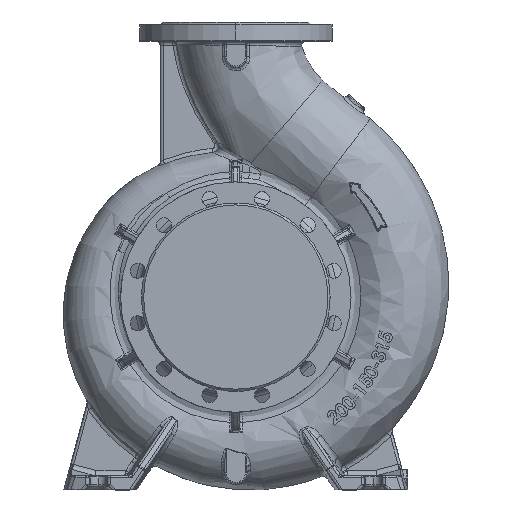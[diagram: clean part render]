
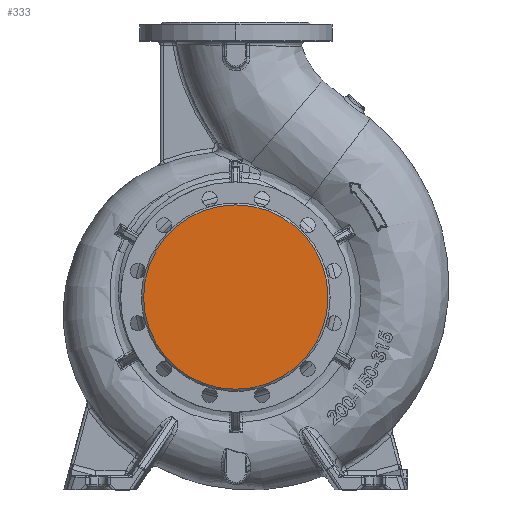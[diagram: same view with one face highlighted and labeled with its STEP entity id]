
A CAD part, top view. The second image highlights one B-rep face of the part: STEP entity #333.
In plain terms, the highlighted planar face has unit normal (0, 0, 1).
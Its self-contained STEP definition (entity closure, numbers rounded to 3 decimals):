
#333 = ADVANCED_FACE ( 'NONE', ( #80663 ), #50918, .T. ) ;
#10302 = CARTESIAN_POINT ( 'NONE',  ( 134., 0., 160. ) ) ;
#15820 = EDGE_CURVE ( 'NONE', #51721, #84961, #26390, .T. ) ;
#18612 = EDGE_LOOP ( 'NONE', ( #64707, #78512 ) ) ;
#21376 = AXIS2_PLACEMENT_3D ( 'NONE', #53398, #44490, #36965 ) ;
#25945 = DIRECTION ( 'NONE',  ( 1., 0., 0. ) ) ;
#26390 = CIRCLE ( 'NONE', #21376, 134. ) ;
#33794 = DIRECTION ( 'NONE',  ( 0., 0., 1. ) ) ;
#34141 = CARTESIAN_POINT ( 'NONE',  ( 0., 0., 160. ) ) ;
#35549 = CIRCLE ( 'NONE', #42718, 134. ) ;
#36965 = DIRECTION ( 'NONE',  ( 1., 0., 0. ) ) ;
#42718 = AXIS2_PLACEMENT_3D ( 'NONE', #73826, #82067, #25945 ) ;
#44490 = DIRECTION ( 'NONE',  ( 0., 0., 1. ) ) ;
#50918 = PLANE ( 'NONE',  #57253 ) ;
#51721 = VERTEX_POINT ( 'NONE', #10302 ) ;
#53398 = CARTESIAN_POINT ( 'NONE',  ( 0., 0., 160. ) ) ;
#54012 = CARTESIAN_POINT ( 'NONE',  ( -134., 0., 160. ) ) ;
#55009 = EDGE_CURVE ( 'NONE', #84961, #51721, #35549, .T. ) ;
#57253 = AXIS2_PLACEMENT_3D ( 'NONE', #34141, #33794, #90965 ) ;
#64707 = ORIENTED_EDGE ( 'NONE', *, *, #55009, .T. ) ;
#73826 = CARTESIAN_POINT ( 'NONE',  ( 0., 0., 160. ) ) ;
#78512 = ORIENTED_EDGE ( 'NONE', *, *, #15820, .T. ) ;
#80663 = FACE_OUTER_BOUND ( 'NONE', #18612, .T. ) ;
#82067 = DIRECTION ( 'NONE',  ( 0., 0., 1. ) ) ;
#84961 = VERTEX_POINT ( 'NONE', #54012 ) ;
#90965 = DIRECTION ( 'NONE',  ( 1., 0., 0. ) ) ;
